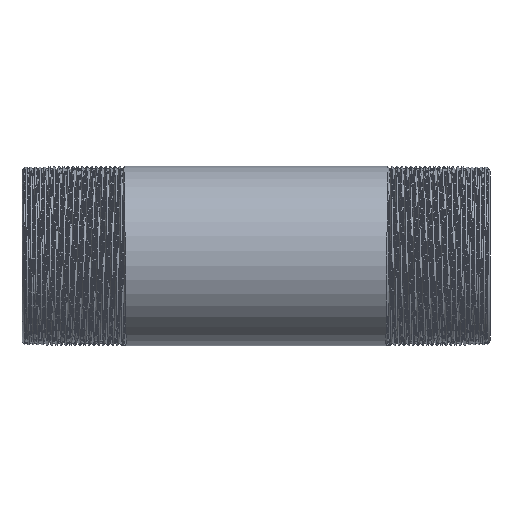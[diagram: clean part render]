
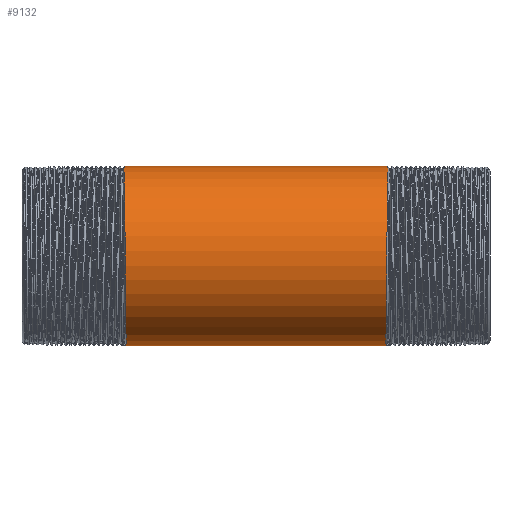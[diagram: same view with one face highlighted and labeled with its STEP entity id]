
A CAD part, front view. The second image highlights one B-rep face of the part: STEP entity #9132.
In plain terms, the highlighted cylindrical face has radius 13.45 mm (diameter 26.9 mm), a partial arc.
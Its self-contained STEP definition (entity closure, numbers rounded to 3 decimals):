
#81 = AXIS2_PLACEMENT_3D ( 'NONE', #12364, #962, #1044 ) ;
#317 = CARTESIAN_POINT ( 'NONE',  ( -19.388, 0., -13.45 ) ) ;
#492 = CARTESIAN_POINT ( 'NONE',  ( 19.388, 0., -13.45 ) ) ;
#508 = CARTESIAN_POINT ( 'NONE',  ( 19.446, -7.765, -13.45 ) ) ;
#676 = CARTESIAN_POINT ( 'NONE',  ( 19.504, -11.648, -6.725 ) ) ;
#793 = CARTESIAN_POINT ( 'NONE',  ( -149.494, 0., 13.45 ) ) ;
#962 = DIRECTION ( 'NONE',  ( -1., 0., 0. ) ) ;
#1044 = DIRECTION ( 'NONE',  ( 0., 0., 1. ) ) ;
#1083 = CARTESIAN_POINT ( 'NONE',  ( -19.738, 0., 13.45 ) ) ;
#1164 = CARTESIAN_POINT ( 'NONE',  ( -19.504, -11.648, -6.725 ) ) ;
#1348 = VECTOR ( 'NONE', #5906, 1000. ) ;
#2038 = LINE ( 'NONE', #793, #6856 ) ;
#2081 = CARTESIAN_POINT ( 'NONE',  ( -19.563, -15.531, 0. ) ) ;
#2172 = EDGE_CURVE ( 'NONE', #4475, #6118, #10700, .T. ) ;
#2397 = EDGE_LOOP ( 'NONE', ( #10376, #10638, #15523, #12643 ) ) ;
#4475 = VERTEX_POINT ( 'NONE', #317 ) ;
#4925 = EDGE_CURVE ( 'NONE', #5213, #6118, #2038, .T. ) ;
#5010 = EDGE_CURVE ( 'NONE', #9879, #5213, #14655, .T. ) ;
#5027 = CYLINDRICAL_SURFACE ( 'NONE', #81, 13.45 ) ;
#5213 = VERTEX_POINT ( 'NONE', #10996 ) ;
#5579 = CARTESIAN_POINT ( 'NONE',  ( 19.621, -11.648, 6.725 ) ) ;
#5745 = CARTESIAN_POINT ( 'NONE',  ( 19.738, 0., 13.45 ) ) ;
#5906 = DIRECTION ( 'NONE',  ( -1., 0., 0. ) ) ;
#6118 = VERTEX_POINT ( 'NONE', #13357 ) ;
#6856 = VECTOR ( 'NONE', #10948, 1000. ) ;
#7166 = CARTESIAN_POINT ( 'NONE',  ( -19.621, -11.648, 6.725 ) ) ;
#8669 = CARTESIAN_POINT ( 'NONE',  ( -19.388, 0., -13.45 ) ) ;
#8749 = CARTESIAN_POINT ( 'NONE',  ( -19.679, -7.765, 13.45 ) ) ;
#8941 = LINE ( 'NONE', #12070, #1348 ) ;
#9132 = ADVANCED_FACE ( 'NONE', ( #13624 ), #5027, .T. ) ;
#9879 = VERTEX_POINT ( 'NONE', #492 ) ;
#10376 = ORIENTED_EDGE ( 'NONE', *, *, #12796, .F. ) ;
#10638 = ORIENTED_EDGE ( 'NONE', *, *, #5010, .T. ) ;
#10700 =( BOUNDED_CURVE ( )  B_SPLINE_CURVE ( 2, ( #8669, #16170, #1164, #2081, #7166, #8749, #1083 ),
 .UNSPECIFIED., .F., .F. ) 
 B_SPLINE_CURVE_WITH_KNOTS ( ( 3, 2, 2, 3 ),
 ( 0., 0.006, 0.011, 0.017 ),
 .UNSPECIFIED. ) 
 CURVE ( )  GEOMETRIC_REPRESENTATION_ITEM ( )  RATIONAL_B_SPLINE_CURVE ( ( 1., 0.866, 1., 0.866, 1., 0.866, 1. ) ) 
 REPRESENTATION_ITEM ( '' )  );
#10948 = DIRECTION ( 'NONE',  ( -1., 0., 0. ) ) ;
#10996 = CARTESIAN_POINT ( 'NONE',  ( 19.738, 0., 13.45 ) ) ;
#11911 = CARTESIAN_POINT ( 'NONE',  ( 19.388, 0., -13.45 ) ) ;
#12070 = CARTESIAN_POINT ( 'NONE',  ( -149.494, 0., -13.45 ) ) ;
#12364 = CARTESIAN_POINT ( 'NONE',  ( -149.494, 0., 0. ) ) ;
#12643 = ORIENTED_EDGE ( 'NONE', *, *, #2172, .F. ) ;
#12796 = EDGE_CURVE ( 'NONE', #9879, #4475, #8941, .T. ) ;
#13357 = CARTESIAN_POINT ( 'NONE',  ( -19.738, 0., 13.45 ) ) ;
#13418 = CARTESIAN_POINT ( 'NONE',  ( 19.679, -7.765, 13.45 ) ) ;
#13624 = FACE_OUTER_BOUND ( 'NONE', #2397, .T. ) ;
#14655 =( BOUNDED_CURVE ( )  B_SPLINE_CURVE ( 2, ( #11911, #508, #676, #14754, #5579, #13418, #5745 ),
 .UNSPECIFIED., .F., .F. ) 
 B_SPLINE_CURVE_WITH_KNOTS ( ( 3, 2, 2, 3 ),
 ( 0., 0.006, 0.011, 0.017 ),
 .UNSPECIFIED. ) 
 CURVE ( )  GEOMETRIC_REPRESENTATION_ITEM ( )  RATIONAL_B_SPLINE_CURVE ( ( 1., 0.866, 1., 0.866, 1., 0.866, 1. ) ) 
 REPRESENTATION_ITEM ( '' )  );
#14754 = CARTESIAN_POINT ( 'NONE',  ( 19.563, -15.531, 0. ) ) ;
#15523 = ORIENTED_EDGE ( 'NONE', *, *, #4925, .T. ) ;
#16170 = CARTESIAN_POINT ( 'NONE',  ( -19.446, -7.765, -13.45 ) ) ;
